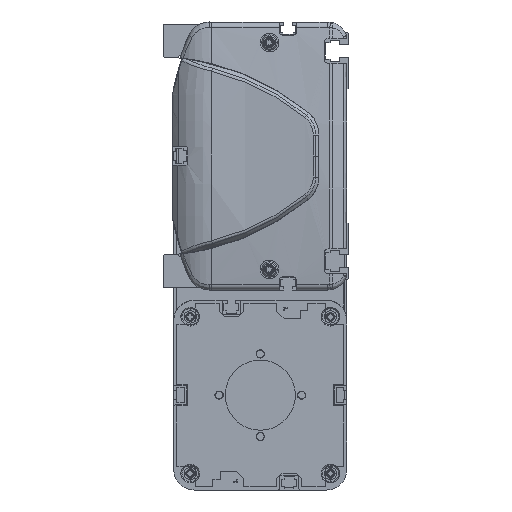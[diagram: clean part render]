
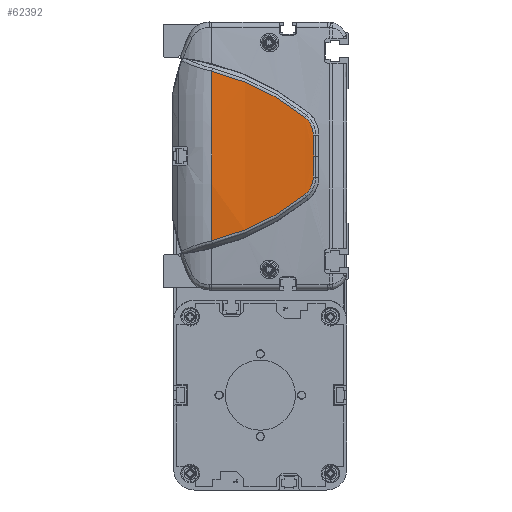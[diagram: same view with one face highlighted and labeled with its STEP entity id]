
A CAD part, left-side view. The second image highlights one B-rep face of the part: STEP entity #62392.
In plain terms, the highlighted cylindrical face has radius 500 mm (diameter 1000 mm), a partial arc.
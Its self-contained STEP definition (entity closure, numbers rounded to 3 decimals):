
#58628=CARTESIAN_POINT('',(-514.,66.962,0.));
#58629=DIRECTION('',(0.,-1.,0.));
#58630=DIRECTION('',(-0.997,0.,0.082));
#58631=AXIS2_PLACEMENT_3D('',#58628,#58629,#58630);
#59511=CARTESIAN_POINT('',(-1013.648,21.913,
-18.759));
#59512=CARTESIAN_POINT('',(-1013.449,28.504,
-24.058));
#59513=CARTESIAN_POINT('',(-1012.934,42.795,
-33.27));
#59514=CARTESIAN_POINT('',(-1012.471,58.756,
-39.127));
#59515=CARTESIAN_POINT('',(-1012.306,66.962,
-41.121));
#59517=CARTESIAN_POINT('',(-1012.306,66.962,
41.121));
#59518=CARTESIAN_POINT('',(-1012.471,58.756,
39.127));
#59519=CARTESIAN_POINT('',(-1012.934,42.795,
33.27));
#59520=CARTESIAN_POINT('',(-1013.449,28.504,
24.058));
#59521=CARTESIAN_POINT('',(-1013.648,21.913,
18.759));
#59523=CARTESIAN_POINT('',(-1013.648,21.913,
18.759));
#59524=CARTESIAN_POINT('',(-1013.686,20.635,
17.736));
#59525=CARTESIAN_POINT('',(-1013.779,18.536,
15.107));
#59526=CARTESIAN_POINT('',(-1013.863,17.752,
11.827));
#59527=CARTESIAN_POINT('',(-1013.896,17.724,
10.178));
#59529=CARTESIAN_POINT('',(-1013.896,17.724,
10.178));
#59530=CARTESIAN_POINT('',(-1013.92,17.707,
9.025));
#59531=CARTESIAN_POINT('',(-1013.959,17.667,
6.733));
#59532=CARTESIAN_POINT('',(-1013.993,17.58,
3.339));
#59533=CARTESIAN_POINT('',(-1014.,17.498,
1.108));
#59534=CARTESIAN_POINT('',(-1014.,17.449,
0.));
#59536=CARTESIAN_POINT('',(-1014.,17.449,
0.));
#59537=CARTESIAN_POINT('',(-1014.,17.498,
-1.108));
#59538=CARTESIAN_POINT('',(-1013.993,17.58,
-3.339));
#59539=CARTESIAN_POINT('',(-1013.959,17.667,
-6.732));
#59540=CARTESIAN_POINT('',(-1013.92,17.707,
-9.027));
#59541=CARTESIAN_POINT('',(-1013.896,17.724,
-10.18));
#59543=CARTESIAN_POINT('',(-1013.896,17.724,
-10.18));
#59544=CARTESIAN_POINT('',(-1013.863,17.752,
-11.828));
#59545=CARTESIAN_POINT('',(-1013.779,18.537,
-15.109));
#59546=CARTESIAN_POINT('',(-1013.686,20.635,
-17.736));
#59547=CARTESIAN_POINT('',(-1013.648,21.913,
-18.759));
#60214=VERTEX_POINT('',#59511);
#60215=VERTEX_POINT('',#59515);
#60216=CARTESIAN_POINT('',(-1012.306,66.962,
41.121));
#60217=VERTEX_POINT('',#60216);
#60218=VERTEX_POINT('',#59521);
#60219=VERTEX_POINT('',#59527);
#60220=VERTEX_POINT('',#59534);
#60221=VERTEX_POINT('',#59541);
#62373=CARTESIAN_POINT('',(-514.,8.606,0.));
#62374=DIRECTION('',(0.,1.,0.));
#62375=DIRECTION('',(1.,0.,0.));
#62376=AXIS2_PLACEMENT_3D('',#62373,#62374,#62375);
#62377=CYLINDRICAL_SURFACE('',#62376,500.);
#62379=ORIENTED_EDGE('',*,*,#62378,.T.);
#62380=ORIENTED_EDGE('',*,*,#61016,.F.);
#62382=ORIENTED_EDGE('',*,*,#62381,.T.);
#62384=ORIENTED_EDGE('',*,*,#62383,.T.);
#62386=ORIENTED_EDGE('',*,*,#62385,.T.);
#62388=ORIENTED_EDGE('',*,*,#62387,.T.);
#62389=ORIENTED_EDGE('',*,*,#62363,.T.);
#62390=EDGE_LOOP('',(#62379,#62380,#62382,#62384,#62386,#62388,#62389));
#62391=FACE_OUTER_BOUND('',#62390,.F.);
#62392=ADVANCED_FACE('',(#62391),#62377,.T.);
#58632=CIRCLE('',#58631,500.);
#59516=B_SPLINE_CURVE_WITH_KNOTS('',3,(#59511,#59512,#59513,#59514,#59515),
.UNSPECIFIED.,.F.,.F.,(4,1,4),(0.,0.5,1.),.UNSPECIFIED.);
#59522=B_SPLINE_CURVE_WITH_KNOTS('',3,(#59517,#59518,#59519,#59520,#59521),
.UNSPECIFIED.,.F.,.F.,(4,1,4),(0.,0.5,1.),.UNSPECIFIED.);
#59528=B_SPLINE_CURVE_WITH_KNOTS('',3,(#59523,#59524,#59525,#59526,#59527),
.UNSPECIFIED.,.F.,.F.,(4,1,4),(0.,0.5,1.),.UNSPECIFIED.);
#59535=B_SPLINE_CURVE_WITH_KNOTS('',3,(#59529,#59530,#59531,#59532,#59533,
#59534),.UNSPECIFIED.,.F.,.F.,(4,1,1,4),(0.,0.333,
0.667,1.),.UNSPECIFIED.);
#59542=B_SPLINE_CURVE_WITH_KNOTS('',3,(#59536,#59537,#59538,#59539,#59540,
#59541),.UNSPECIFIED.,.F.,.F.,(4,1,1,4),(0.,0.333,
0.667,1.),.UNSPECIFIED.);
#59548=B_SPLINE_CURVE_WITH_KNOTS('',3,(#59543,#59544,#59545,#59546,#59547),
.UNSPECIFIED.,.F.,.F.,(4,1,4),(0.,0.5,1.),.UNSPECIFIED.);
#61016=EDGE_CURVE('',#60217,#60215,#58632,.T.);
#62363=EDGE_CURVE('',#60221,#60214,#59548,.T.);
#62378=EDGE_CURVE('',#60214,#60215,#59516,.T.);
#62381=EDGE_CURVE('',#60217,#60218,#59522,.T.);
#62383=EDGE_CURVE('',#60218,#60219,#59528,.T.);
#62385=EDGE_CURVE('',#60219,#60220,#59535,.T.);
#62387=EDGE_CURVE('',#60220,#60221,#59542,.T.);
